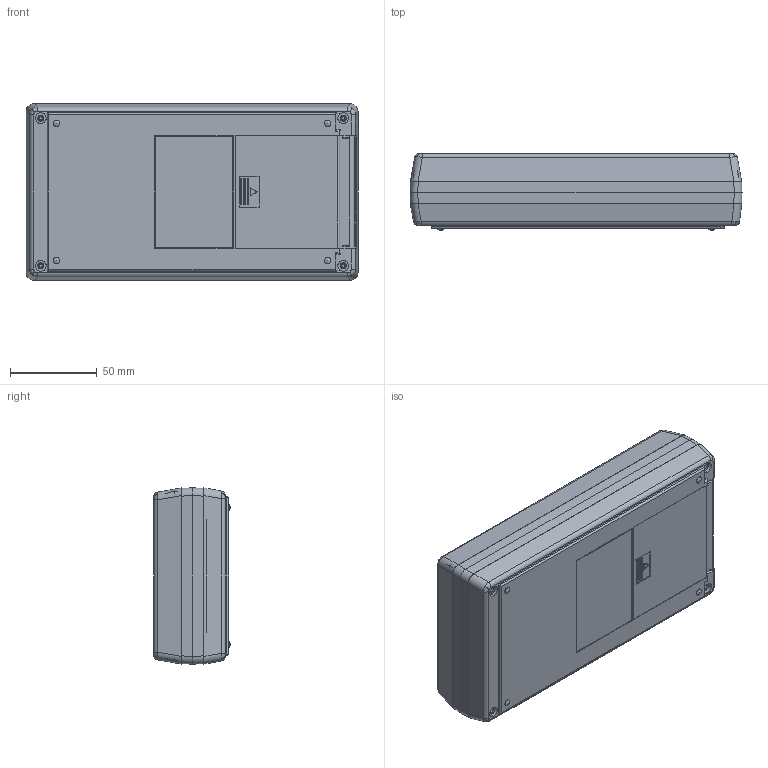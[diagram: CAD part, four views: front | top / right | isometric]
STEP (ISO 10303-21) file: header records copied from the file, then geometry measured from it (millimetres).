
FILE_DESCRIPTION (( 'STEP AP214' ), '1' );
FILE_NAME ('101-41-4A-E-R.STEP', '2019-12-01T01:23:11', ( 'Rudy' ), ( '' ), 'SwSTEP 2.0', 'SolidWorks 2014', '' );
FILE_SCHEMA (( 'AUTOMOTIVE_DESIGN' ));
Length unit declared in the file: millimetre
Products named in the file (5): 100-04-LCD Top; 100-01 BOT-4AA; 101-41-4A-E-R; 100-06 EXPANDER; 4AAdoor
Assembly tree (4 placements, depth 2):
  101-41-4A-E-R
    100-01 BOT-4AA
    100-04-LCD Top
    4AAdoor
    100-06 EXPANDER
Bounding box: 191 x 44 x 101.4 mm (x, y, z)
Volume: 139733.7 mm3; surface area: 147562.2 mm2
Topology: 4 solids, 4 shells, 1010 faces, 2723 edges, 1714 vertices
Faces by surface type: plane 644, cylinder 264, bspline 44, cone 42, torus 12, sphere 4
Entity records: 32720 total; most frequent: CARTESIAN_POINT 8064, ORIENTED_EDGE 5366, DIRECTION 4710, EDGE_CURVE 2683, LINE 1974, VECTOR 1974, VERTEX_POINT 1706, AXIS2_PLACEMENT_3D 1368
